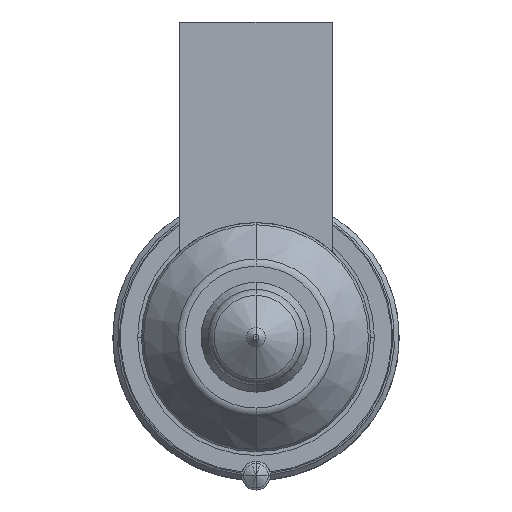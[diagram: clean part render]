
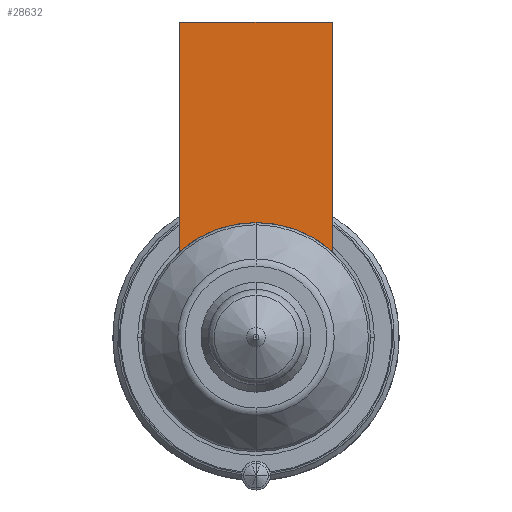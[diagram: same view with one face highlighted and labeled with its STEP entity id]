
A CAD part, front view. The second image highlights one B-rep face of the part: STEP entity #28632.
In plain terms, the highlighted planar face has unit normal (0, -1, 0).
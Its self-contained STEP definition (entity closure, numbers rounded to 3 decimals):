
#27792=DIRECTION('',(0.,0.,-1.));
#27793=VECTOR('',#27792,24.056);
#27794=CARTESIAN_POINT('',(-8.,-56.,33.));
#27795=LINE('',#27794,#27793);
#27832=DIRECTION('',(1.,0.,0.));
#27833=VECTOR('',#27832,16.);
#27834=CARTESIAN_POINT('',(-8.,-56.,33.));
#27835=LINE('',#27834,#27833);
#27839=CARTESIAN_POINT('',(0.,-56.,0.));
#27840=DIRECTION('',(0.,-1.,0.));
#27841=DIRECTION('',(0.667,0.,0.745));
#27842=AXIS2_PLACEMENT_3D('',#27839,#27840,#27841);
#27847=CARTESIAN_POINT('',(0.,-56.,0.));
#27848=DIRECTION('',(0.,-1.,0.));
#27849=DIRECTION('',(0.,0.,1.));
#27850=AXIS2_PLACEMENT_3D('',#27847,#27848,#27849);
#27883=DIRECTION('',(0.,0.,-1.));
#27884=VECTOR('',#27883,24.056);
#27885=CARTESIAN_POINT('',(8.,-56.,33.));
#27886=LINE('',#27885,#27884);
#28476=CARTESIAN_POINT('',(-8.,-56.,33.));
#28477=VERTEX_POINT('',#28476);
#28482=CARTESIAN_POINT('',(8.,-56.,33.));
#28483=VERTEX_POINT('',#28482);
#28486=CARTESIAN_POINT('',(-8.,-56.,8.944));
#28487=VERTEX_POINT('',#28486);
#28490=CARTESIAN_POINT('',(8.,-56.,8.944));
#28491=VERTEX_POINT('',#28490);
#28551=CARTESIAN_POINT('',(0.,-56.,12.));
#28552=VERTEX_POINT('',#28551);
#28617=CARTESIAN_POINT('',(-8.,-56.,33.));
#28618=DIRECTION('',(0.,-1.,0.));
#28619=DIRECTION('',(0.,0.,-1.));
#28620=AXIS2_PLACEMENT_3D('',#28617,#28618,#28619);
#28621=PLANE('',#28620);
#28622=ORIENTED_EDGE('',*,*,#28565,.F.);
#28624=ORIENTED_EDGE('',*,*,#28623,.T.);
#28626=ORIENTED_EDGE('',*,*,#28625,.T.);
#28628=ORIENTED_EDGE('',*,*,#28627,.T.);
#28629=ORIENTED_EDGE('',*,*,#28597,.T.);
#28630=EDGE_LOOP('',(#28622,#28624,#28626,#28628,#28629));
#28631=FACE_OUTER_BOUND('',#28630,.F.);
#28632=ADVANCED_FACE('',(#28631),#28621,.T.);
#27843=CIRCLE('',#27842,12.);
#27851=CIRCLE('',#27850,12.);
#28565=EDGE_CURVE('',#28477,#28487,#27795,.T.);
#28597=EDGE_CURVE('',#28552,#28487,#27851,.T.);
#28623=EDGE_CURVE('',#28477,#28483,#27835,.T.);
#28625=EDGE_CURVE('',#28483,#28491,#27886,.T.);
#28627=EDGE_CURVE('',#28491,#28552,#27843,.T.);
